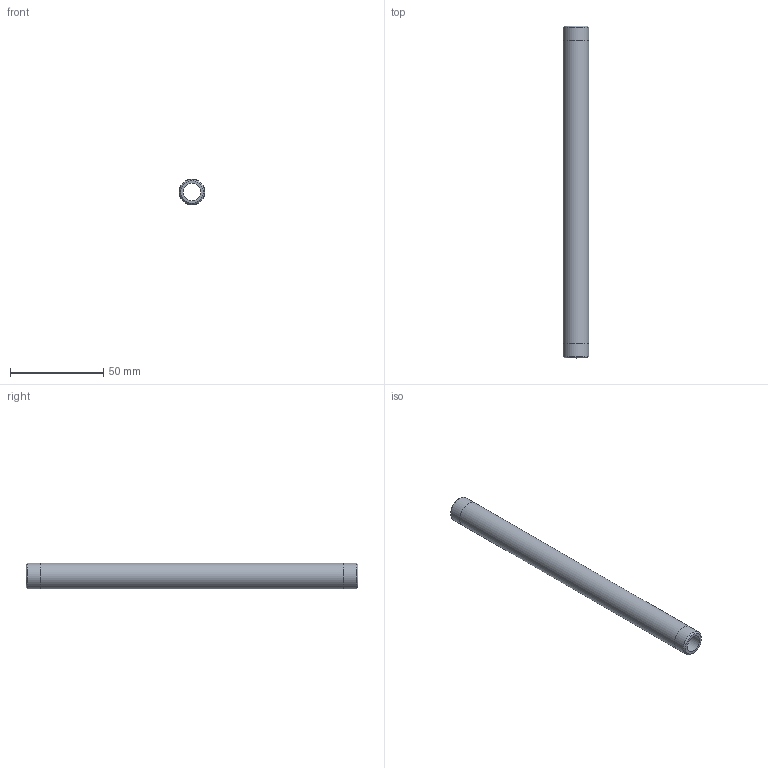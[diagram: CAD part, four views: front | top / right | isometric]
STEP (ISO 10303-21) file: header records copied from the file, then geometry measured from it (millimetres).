
FILE_DESCRIPTION(/* description */ (''),/* implementation_level */ '2;1');
FILE_NAME(/* name */ 'C:/Users/drich/Desktop/SSPN14-7 v1.step',/* time_stamp */ '2020-01-04T13:14:33-06:00',/* author */ (''),/* organization */ (''),/* preprocessor_version */ 'ST-DEVELOPER v18',/* originating_system */ 'Autodesk Translation Framework v8.12.0.6',/* authorisation */ '');
FILE_SCHEMA (('AUTOMOTIVE_DESIGN { 1 0 10303 214 3 1 1 }'));
Length unit declared in the file: inch
Products named in the file (1): SSPN14-7
Bounding box: 13.72 x 177.8 x 13.72 mm (x, y, z)
Volume: 14293.4 mm3; surface area: 12944.7 mm2
Topology: 1 solids, 1 shells, 10 faces, 24 edges, 18 vertices
Faces by surface type: cylinder 4, plane 4, cone 2
Full cylindrical faces by diameter (mm): 9.246 x1, 13.665 x2, 13.716 x1
Entity records: 353 total; most frequent: DIRECTION 64, CARTESIAN_POINT 53, ORIENTED_EDGE 48, AXIS2_PLACEMENT_3D 29, EDGE_CURVE 24, CIRCLE 18, VERTEX_POINT 18, EDGE_LOOP 14
